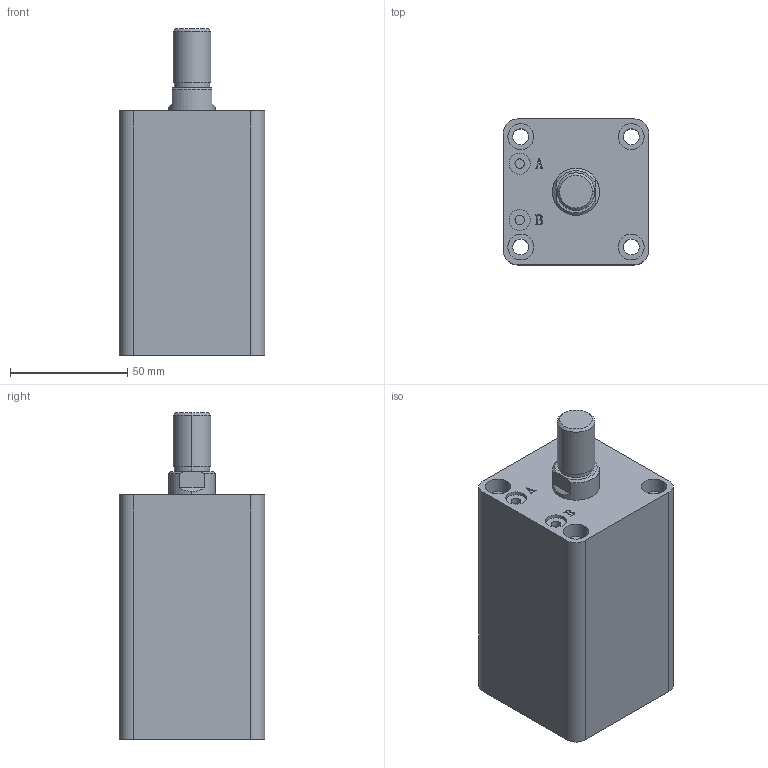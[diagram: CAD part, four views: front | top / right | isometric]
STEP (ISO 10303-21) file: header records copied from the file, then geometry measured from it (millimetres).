
FILE_DESCRIPTION (( 'STEP AP203' ), '1' );
FILE_NAME ('HTB-SDMA32-50W.STEP', '2019-10-07T11:41:41', ( '微软用户' ), ( '微软中国' ), 'SwSTEP 2.0', 'SolidWorks 2012', '' );
FILE_SCHEMA (( 'CONFIG_CONTROL_DESIGN' ));
Length unit declared in the file: millimetre
Products named in the file (3): HTB-SDMA32-50W; HTB-SDMA32-50W活塞杆; HTB-SDMA32-50掛极
Assembly tree (2 placements, depth 2):
  HTB-SDMA32-50W
    HTB-SDMA32-50掛极
    HTB-SDMA32-50W活塞杆
Bounding box: 62 x 62 x 139 mm (x, y, z)
Volume: 361332.9 mm3; surface area: 61477.2 mm2
Topology: 2 solids, 2 shells, 141 faces, 337 edges, 222 vertices
Faces by surface type: plane 67, cylinder 48, bspline 16, torus 6, cone 4
Entity records: 5176 total; most frequent: CARTESIAN_POINT 1593, ORIENTED_EDGE 674, DIRECTION 669, EDGE_CURVE 337, AXIS2_PLACEMENT_3D 242, VERTEX_POINT 222, VECTOR 185, LINE 185
